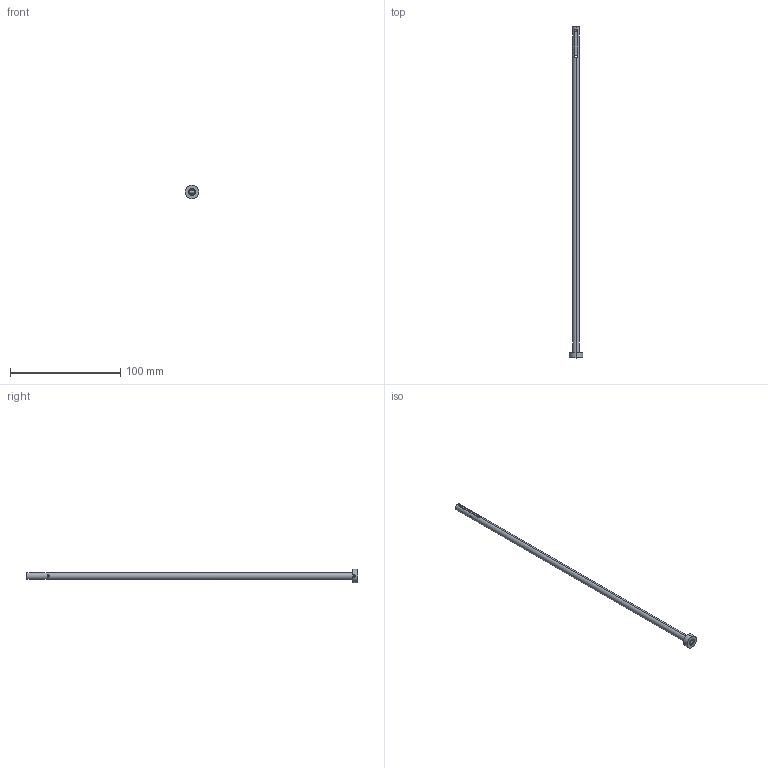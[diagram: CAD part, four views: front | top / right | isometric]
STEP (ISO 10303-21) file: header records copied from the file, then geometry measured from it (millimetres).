
FILE_DESCRIPTION (( 'STEP AP203' ), '1' );
FILE_NAME ('SGDE-608x300.STEP', '2017-01-10T15:40:51', ( 'Balzi' ), ( '' ), 'SwSTEP 2.0', 'SolidWorks 2016', '' );
FILE_SCHEMA (( 'CONFIG_CONTROL_DESIGN' ));
Length unit declared in the file: millimetre
Products named in the file (1): SGDE-608x300
Bounding box: 12 x 300.8 x 12 mm (x, y, z)
Volume: 4905.8 mm3; surface area: 10528.1 mm2
Topology: 1 solids, 1 shells, 84 faces, 234 edges, 154 vertices
Faces by surface type: cylinder 48, plane 32, cone 4
Entity records: 3313 total; most frequent: CARTESIAN_POINT 1077, ORIENTED_EDGE 468, DIRECTION 422, EDGE_CURVE 234, AXIS2_PLACEMENT_3D 155, VERTEX_POINT 154, LINE 112, VECTOR 112
